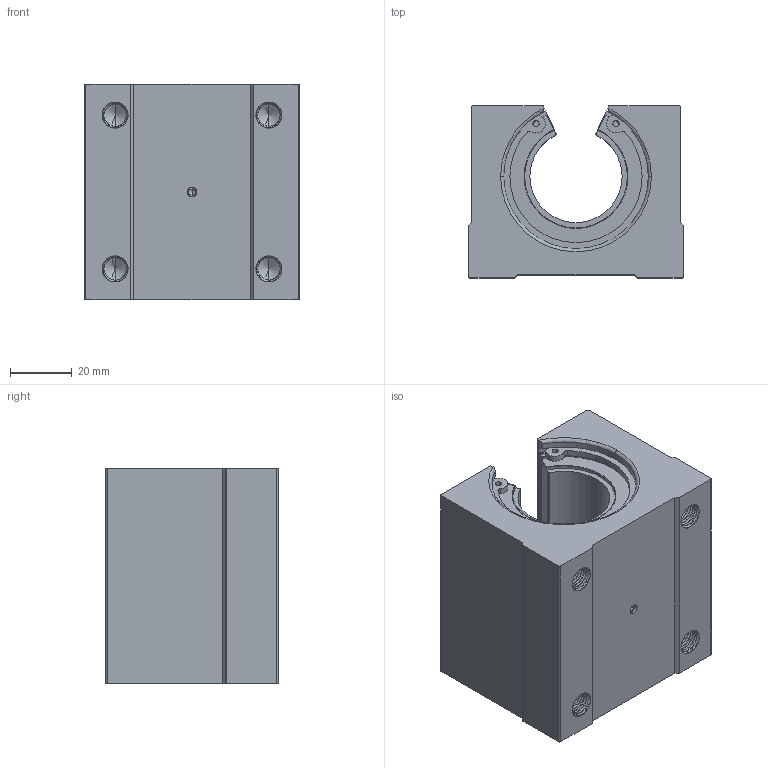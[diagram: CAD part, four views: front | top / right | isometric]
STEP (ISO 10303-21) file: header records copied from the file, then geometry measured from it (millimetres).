
FILE_DESCRIPTION (( 'STEP AP214' ), '1' );
FILE_NAME ('SBR30UU.STEP', '2026-10-19T11:20:34', ( '' ), ( '' ), 'SwSTEP 2.0', 'SolidWorks 2022', '' );
FILE_SCHEMA (( 'AUTOMOTIVE_DESIGN' ));
Length unit declared in the file: millimetre
Products named in the file (6): SBR30UU-03; SBR30UU; SBR30UU-04; SBR30UU-02; SBR30UU-05; SBR30UU-01
Assembly tree (7 placements, depth 2):
  SBR30UU
    SBR30UU-01
    SBR30UU-02
    SBR30UU-03
    SBR30UU-04  x2
    SBR30UU-05  x2
Bounding box: 70 x 56 x 70 mm (x, y, z)
Volume: 192921.1 mm3; surface area: 67707.6 mm2
Topology: 8 solids, 8 shells, 403 faces, 1097 edges, 709 vertices
Faces by surface type: cylinder 268, plane 79, cone 26, bspline 24, torus 6
Entity records: 26081 total; most frequent: CARTESIAN_POINT 17232, ORIENTED_EDGE 1988, DIRECTION 1568, EDGE_CURVE 994, VERTEX_POINT 647, AXIS2_PLACEMENT_3D 573, VECTOR 422, LINE 422
